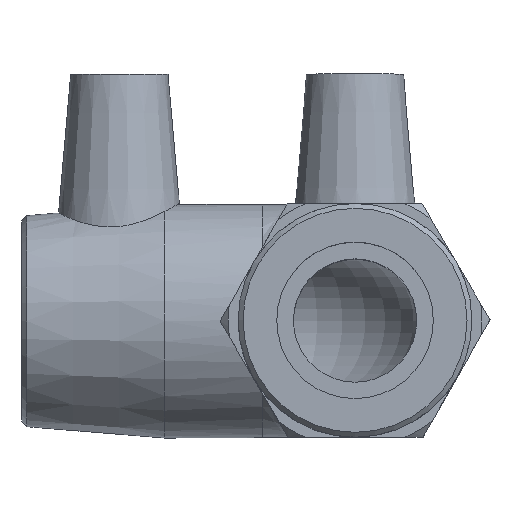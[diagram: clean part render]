
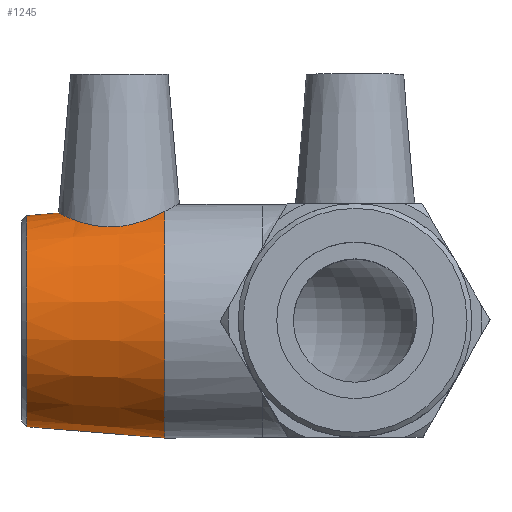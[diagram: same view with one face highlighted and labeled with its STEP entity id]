
A CAD part, top view. The second image highlights one B-rep face of the part: STEP entity #1245.
In plain terms, the highlighted conical face has half-angle 4.677 degrees and reference radius 17.1 mm.
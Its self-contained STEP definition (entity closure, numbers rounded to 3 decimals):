
#17=B_SPLINE_CURVE_WITH_KNOTS('',3,(#2106,#2107,#2108,#2109,#2110,#2111,
#2112,#2113,#2114,#2115,#2116,#2117,#2118,#2119,#2120,#2121,#2122,#2123,
#2124,#2125,#2126,#2127,#2128,#2129),.UNSPECIFIED.,.F.,.F.,(4,2,2,2,2,2,
2,2,2,2,2,4),(0.,0.35,0.699,1.051,1.403,
1.755,2.107,2.457,2.806,3.192,
3.578,3.663),.UNSPECIFIED.);
#18=B_SPLINE_CURVE_WITH_KNOTS('',3,(#2132,#2133,#2134,#2135,#2136,#2137,
#2138,#2139),.UNSPECIFIED.,.F.,.F.,(4,2,2,4),(-0.856,-0.772,
-0.386,0.),.UNSPECIFIED.);
#28=FACE_BOUND('',#256,.T.);
#125=CONICAL_SURFACE('',#1371,17.1,4.677);
#172=FACE_OUTER_BOUND('',#255,.T.);
#255=EDGE_LOOP('',(#999,#1000,#1001));
#256=EDGE_LOOP('',(#1002));
#371=CIRCLE('',#1370,16.261);
#372=CIRCLE('',#1372,18.);
#588=VERTEX_POINT('',#2101);
#589=VERTEX_POINT('',#2104);
#590=VERTEX_POINT('',#2105);
#591=VERTEX_POINT('',#2130);
#739=EDGE_CURVE('',#588,#588,#371,.T.);
#740=EDGE_CURVE('',#589,#590,#17,.T.);
#741=EDGE_CURVE('',#591,#590,#372,.T.);
#742=EDGE_CURVE('',#591,#589,#18,.T.);
#999=ORIENTED_EDGE('',*,*,#740,.T.);
#1000=ORIENTED_EDGE('',*,*,#741,.F.);
#1001=ORIENTED_EDGE('',*,*,#742,.T.);
#1002=ORIENTED_EDGE('',*,*,#739,.F.);
#1245=ADVANCED_FACE('',(#172,#28),#125,.T.);
#1370=AXIS2_PLACEMENT_3D('',#2102,#1659,#1660);
#1371=AXIS2_PLACEMENT_3D('',#2103,#1661,#1662);
#1372=AXIS2_PLACEMENT_3D('',#2131,#1663,#1664);
#1659=DIRECTION('center_axis',(-1.,0.,0.));
#1660=DIRECTION('ref_axis',(0.,-1.,0.));
#1661=DIRECTION('center_axis',(1.,0.,0.));
#1662=DIRECTION('ref_axis',(0.,1.,0.));
#1663=DIRECTION('center_axis',(1.,0.,0.));
#1664=DIRECTION('ref_axis',(0.,0.,-1.));
#2101=CARTESIAN_POINT('',(-50.552,16.261,0.));
#2102=CARTESIAN_POINT('Origin',(-50.552,0.,0.));
#2103=CARTESIAN_POINT('Origin',(-40.3,0.,0.));
#2104=CARTESIAN_POINT('',(-36.785,14.536,9.54));
#2105=CARTESIAN_POINT('',(-29.3,16.901,-6.192));
#2106=CARTESIAN_POINT('Ctrl Pts',(-36.785,14.536,9.54));
#2107=CARTESIAN_POINT('Ctrl Pts',(-37.947,14.457,9.488));
#2108=CARTESIAN_POINT('Ctrl Pts',(-39.162,14.539,9.194));
#2109=CARTESIAN_POINT('Ctrl Pts',(-41.354,14.942,8.155));
#2110=CARTESIAN_POINT('Ctrl Pts',(-42.335,15.251,7.411));
#2111=CARTESIAN_POINT('Ctrl Pts',(-43.876,15.819,5.746));
#2112=CARTESIAN_POINT('Ctrl Pts',(-44.547,16.121,4.703));
#2113=CARTESIAN_POINT('Ctrl Pts',(-45.443,16.544,2.417));
#2114=CARTESIAN_POINT('Ctrl Pts',(-45.667,16.661,1.173));
#2115=CARTESIAN_POINT('Ctrl Pts',(-45.667,16.661,-1.173));
#2116=CARTESIAN_POINT('Ctrl Pts',(-45.443,16.544,-2.417));
#2117=CARTESIAN_POINT('Ctrl Pts',(-44.547,16.121,-4.703));
#2118=CARTESIAN_POINT('Ctrl Pts',(-43.876,15.819,-5.746));
#2119=CARTESIAN_POINT('Ctrl Pts',(-42.335,15.251,-7.411));
#2120=CARTESIAN_POINT('Ctrl Pts',(-41.354,14.942,-8.155));
#2121=CARTESIAN_POINT('Ctrl Pts',(-39.162,14.539,-9.194));
#2122=CARTESIAN_POINT('Ctrl Pts',(-37.947,14.457,-9.488));
#2123=CARTESIAN_POINT('Ctrl Pts',(-35.503,14.624,-9.598));
#2124=CARTESIAN_POINT('Ctrl Pts',(-34.177,14.912,-9.37));
#2125=CARTESIAN_POINT('Ctrl Pts',(-31.777,15.703,-8.398));
#2126=CARTESIAN_POINT('Ctrl Pts',(-30.698,16.193,-7.655));
#2127=CARTESIAN_POINT('Ctrl Pts',(-29.658,16.715,-6.603));
#2128=CARTESIAN_POINT('Ctrl Pts',(-29.476,16.809,-6.403));
#2129=CARTESIAN_POINT('Ctrl Pts',(-29.3,16.901,-6.192));
#2130=CARTESIAN_POINT('',(-29.3,16.901,6.192));
#2131=CARTESIAN_POINT('Origin',(-29.3,0.,0.));
#2132=CARTESIAN_POINT('Ctrl Pts',(-29.3,16.901,6.192));
#2133=CARTESIAN_POINT('Ctrl Pts',(-29.476,16.809,6.403));
#2134=CARTESIAN_POINT('Ctrl Pts',(-29.658,16.715,6.603));
#2135=CARTESIAN_POINT('Ctrl Pts',(-30.698,16.193,7.655));
#2136=CARTESIAN_POINT('Ctrl Pts',(-31.777,15.703,8.398));
#2137=CARTESIAN_POINT('Ctrl Pts',(-34.177,14.912,9.37));
#2138=CARTESIAN_POINT('Ctrl Pts',(-35.503,14.624,9.598));
#2139=CARTESIAN_POINT('Ctrl Pts',(-36.785,14.536,9.54));
